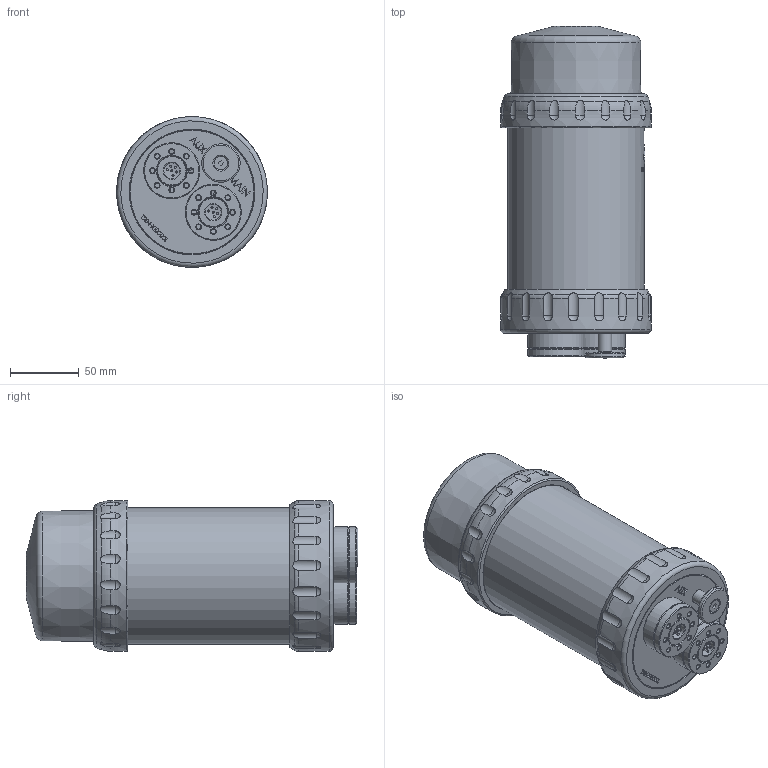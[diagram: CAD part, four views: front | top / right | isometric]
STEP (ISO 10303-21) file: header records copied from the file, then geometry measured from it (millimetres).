
FILE_DESCRIPTION (( 'STEP AP214' ), '1' );
FILE_NAME ('Super SeaKing DFS Sonar 325-675 V6.STEP', '2014-12-10T08:54:01', ( 'Allan' ), ( 'Microsoft' ), 'SwSTEP 2.0', 'SolidWorks 2013', '' );
FILE_SCHEMA (( 'AUTOMOTIVE_DESIGN' ));
Length unit declared in the file: inch
Products named in the file (1): Super SeaKing DFS Sonar 325-675 V6
Bounding box: 109.64 x 241.6 x 109.64 mm (x, y, z)
Surface area: 114161.8 mm2 (no closed solid volume)
Topology: 0 solids, 37 shells, 381 faces, 1654 edges, 1218 vertices
Faces by surface type: cylinder 120, plane 99, torus 52, sphere 50, cone 37, bspline 23
Full cylindrical faces by diameter (mm): 1.5 x12, 3.43 x16, 7 x8, 9.62 x1, 9.8 x1, 10 x2, 11.69 x2, 11.8 x1, 21.94 x2, 28 x1, 40.7 x4, 91 x1, 91.55 x1, 98.8 x2, 99 x1, 99.7 x1, 100.54 x1, 109.64 x2
Entity records: 26327 total; most frequent: CARTESIAN_POINT 10023, DIRECTION 2083, ORIENTED_EDGE 2048, EDGE_CURVE 1393, VERTEX_POINT 1125, AXIS2_PLACEMENT_3D 763, EDGE_LOOP 580, VECTOR 557
